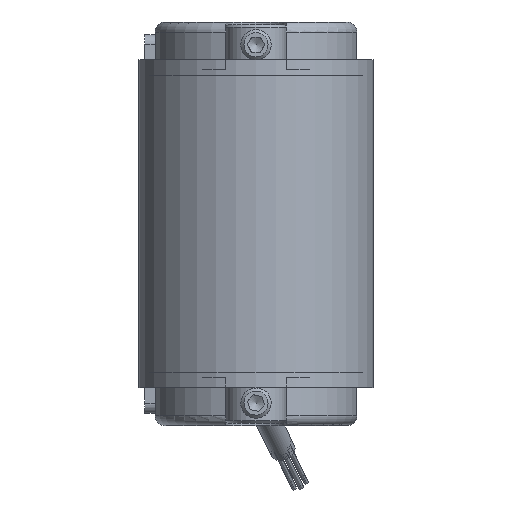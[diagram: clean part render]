
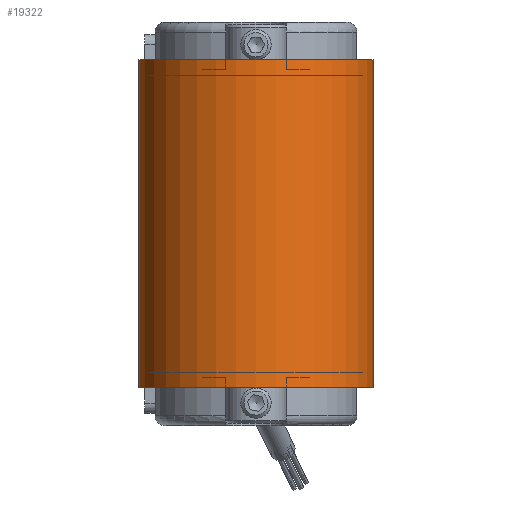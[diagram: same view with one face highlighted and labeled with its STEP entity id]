
A CAD part, front view. The second image highlights one B-rep face of the part: STEP entity #19322.
In plain terms, the highlighted cylindrical face has radius 23.3 mm (diameter 46.6 mm), a partial arc.
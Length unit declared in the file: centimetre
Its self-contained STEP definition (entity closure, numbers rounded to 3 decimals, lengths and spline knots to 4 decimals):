
#393=CYLINDRICAL_SURFACE('',#20736,2.33);
#1023=CIRCLE('',#20731,2.33);
#1026=CIRCLE('',#20737,2.33);
#2720=FACE_OUTER_BOUND('',#3825,.T.);
#3825=EDGE_LOOP('',(#15415,#15416,#15417,#15418));
#5099=LINE('',#32335,#6586);
#5100=LINE('',#32339,#6587);
#6586=VECTOR('',#24360,1.);
#6587=VECTOR('',#24365,1.);
#8605=VERTEX_POINT('',#32318);
#8606=VERTEX_POINT('',#32319);
#8611=VERTEX_POINT('',#32333);
#8612=VERTEX_POINT('',#32337);
#11003=EDGE_CURVE('',#8605,#8606,#1023,.T.);
#11011=EDGE_CURVE('',#8611,#8606,#5099,.T.);
#11012=EDGE_CURVE('',#8611,#8612,#1026,.T.);
#11013=EDGE_CURVE('',#8605,#8612,#5100,.T.);
#15415=ORIENTED_EDGE('',*,*,#11012,.T.);
#15416=ORIENTED_EDGE('',*,*,#11013,.F.);
#15417=ORIENTED_EDGE('',*,*,#11003,.T.);
#15418=ORIENTED_EDGE('',*,*,#11011,.F.);
#19322=ADVANCED_FACE('',(#2720),#393,.T.);
#20731=AXIS2_PLACEMENT_3D('',#32320,#24345,#24346);
#20736=AXIS2_PLACEMENT_3D('',#32336,#24361,#24362);
#20737=AXIS2_PLACEMENT_3D('',#32338,#24363,#24364);
#24345=DIRECTION('center_axis',(0.,0.,
-1.));
#24346=DIRECTION('ref_axis',(-1.,0.,0.));
#24360=DIRECTION('',(0.,0.,1.));
#24361=DIRECTION('center_axis',(0.,0.,
-1.));
#24362=DIRECTION('ref_axis',(-1.,0.,0.));
#24363=DIRECTION('center_axis',(0.,0.,
1.));
#24364=DIRECTION('ref_axis',(-1.,0.,0.));
#24365=DIRECTION('',(0.,0.,-1.));
#32318=CARTESIAN_POINT('',(2.33,-77.,3.25));
#32319=CARTESIAN_POINT('',(-2.33,-77.,3.25));
#32320=CARTESIAN_POINT('Origin',(0.,-77.,
3.25));
#32333=CARTESIAN_POINT('',(-2.33,-77.,-3.25));
#32335=CARTESIAN_POINT('',(-2.33,-77.,0.));
#32336=CARTESIAN_POINT('Origin',(0.,-77.,
0.));
#32337=CARTESIAN_POINT('',(2.33,-77.,-3.25));
#32338=CARTESIAN_POINT('Origin',(0.,-77.,
-3.25));
#32339=CARTESIAN_POINT('',(2.33,-77.,0.));
